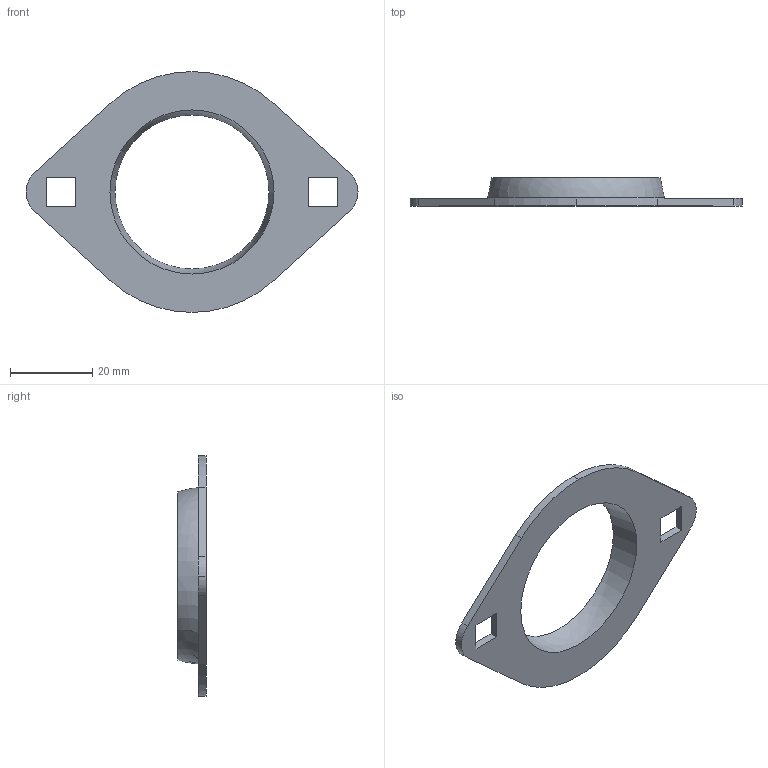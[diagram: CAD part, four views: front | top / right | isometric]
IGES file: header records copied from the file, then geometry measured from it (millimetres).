
Global section: file name: C:\Documents and Settings\Administrator\Desktop\Transfer Temp\selfaligningflange.igs; native system: AutoDesk Inventor R2.0 ; preprocessor: AutoDesk Inventor Iges Exporter R2.0; author: No Author specified; organization: No Organization specified; date: 20011230.143144; units: inch
Bounding box: 80.9 x 6.87 x 58.67 mm (x, y, z)
Surface area: 5616.2 mm2 (no closed solid volume)
Topology: 0 solids, 0 shells, 25 faces, 131 edges, 129 vertices
Faces by surface type: bspline 15, revolution 10
